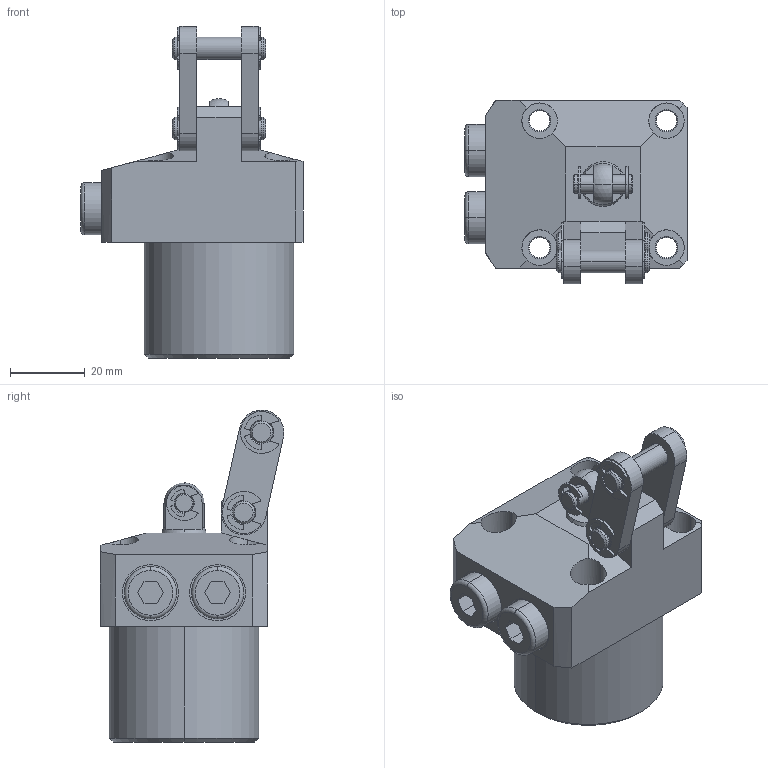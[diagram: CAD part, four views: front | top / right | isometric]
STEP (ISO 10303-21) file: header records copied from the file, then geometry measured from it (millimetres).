
FILE_DESCRIPTION (( 'STEP AP214' ), '1' );
FILE_NAME ('4171 221 R.STEP', '2017-10-17T09:07:52', ( '' ), ( '' ), 'SwSTEP 2.0', 'SolidWorks 2015', '' );
FILE_SCHEMA (( 'AUTOMOTIVE_DESIGN' ));
Length unit declared in the file: millimetre
Products named in the file (8): PROD; PLATE; PIN; BODY_4171 221 R; 4171 221 R; (type e)_is_IS 3075(Part3) - 5; (type e)_is_IS 3075(Part3) - 4; PIN1
Assembly tree (13 placements, depth 2):
  4171 221 R
    BODY_4171 221 R
    PIN  x2
    PLATE  x2
    PROD
    PIN1
    (type e)_is_IS 3075(Part3) - 4  x2
    (type e)_is_IS 3075(Part3) - 5  x4
Bounding box: 59.5 x 49.28 x 88.97 mm (x, y, z)
Volume: 98270.9 mm3; surface area: 23419.7 mm2
Topology: 13 solids, 13 shells, 403 faces, 1001 edges, 637 vertices
Faces by surface type: cylinder 198, plane 131, cone 68, torus 4, sphere 2
Entity records: 8270 total; most frequent: CARTESIAN_POINT 1551, DIRECTION 1426, ORIENTED_EDGE 1264, EDGE_CURVE 632, AXIS2_PLACEMENT_3D 556, VERTEX_POINT 401, VECTOR 314, LINE 314
